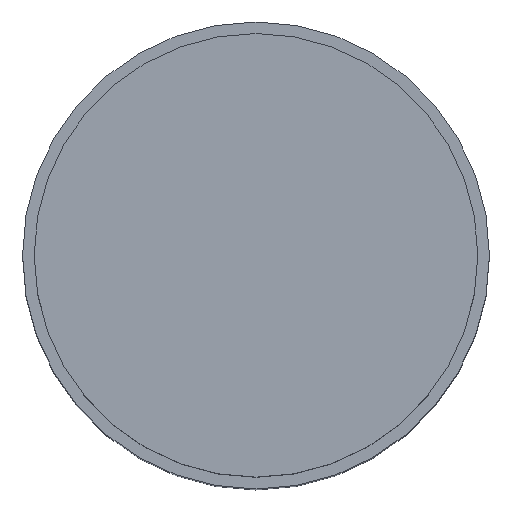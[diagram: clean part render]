
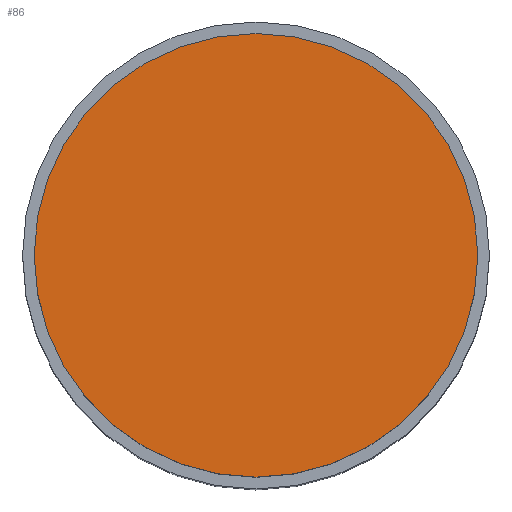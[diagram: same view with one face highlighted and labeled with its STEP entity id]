
A CAD part, top view. The second image highlights one B-rep face of the part: STEP entity #86.
In plain terms, the highlighted planar face has unit normal (0, 0, 1).
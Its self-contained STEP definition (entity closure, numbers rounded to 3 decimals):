
#13 = CARTESIAN_POINT ( 'NONE',  ( 0., -8.783, 33.623 ) ) ;
#16 = ORIENTED_EDGE ( 'NONE', *, *, #79, .T. ) ;
#29 = PLANE ( 'NONE',  #237 ) ;
#32 = DIRECTION ( 'NONE',  ( 0., 0., -1. ) ) ;
#59 = CARTESIAN_POINT ( 'NONE',  ( -9.5, -8.783, 33.623 ) ) ;
#73 = DIRECTION ( 'NONE',  ( 1., 0., 0. ) ) ;
#79 = EDGE_CURVE ( 'NONE', #278, #138, #208, .T. ) ;
#81 = DIRECTION ( 'NONE',  ( 0., 0., 1. ) ) ;
#86 = ADVANCED_FACE ( 'NONE', ( #263 ), #29, .F. ) ;
#105 = AXIS2_PLACEMENT_3D ( 'NONE', #13, #288, #73 ) ;
#111 = CIRCLE ( 'NONE', #105, 9.5 ) ;
#138 = VERTEX_POINT ( 'NONE', #59 ) ;
#140 = EDGE_LOOP ( 'NONE', ( #16, #152 ) ) ;
#149 = CARTESIAN_POINT ( 'NONE',  ( 9.5, -8.783, 33.623 ) ) ;
#152 = ORIENTED_EDGE ( 'NONE', *, *, #193, .T. ) ;
#186 = DIRECTION ( 'NONE',  ( -1., 0., 0. ) ) ;
#193 = EDGE_CURVE ( 'NONE', #138, #278, #111, .T. ) ;
#208 = CIRCLE ( 'NONE', #304, 9.5 ) ;
#217 = CARTESIAN_POINT ( 'NONE',  ( 0., 0.717, 33.623 ) ) ;
#237 = AXIS2_PLACEMENT_3D ( 'NONE', #217, #32, #186 ) ;
#262 = DIRECTION ( 'NONE',  ( 1., 0., 0. ) ) ;
#263 = FACE_OUTER_BOUND ( 'NONE', #140, .T. ) ;
#278 = VERTEX_POINT ( 'NONE', #149 ) ;
#288 = DIRECTION ( 'NONE',  ( 0., 0., 1. ) ) ;
#304 = AXIS2_PLACEMENT_3D ( 'NONE', #321, #81, #262 ) ;
#321 = CARTESIAN_POINT ( 'NONE',  ( 0., -8.783, 33.623 ) ) ;
